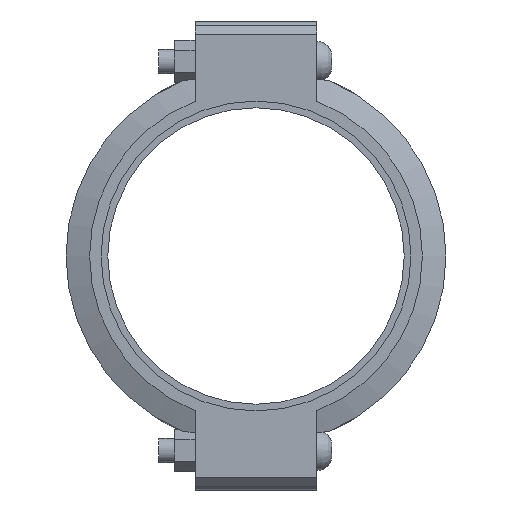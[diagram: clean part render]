
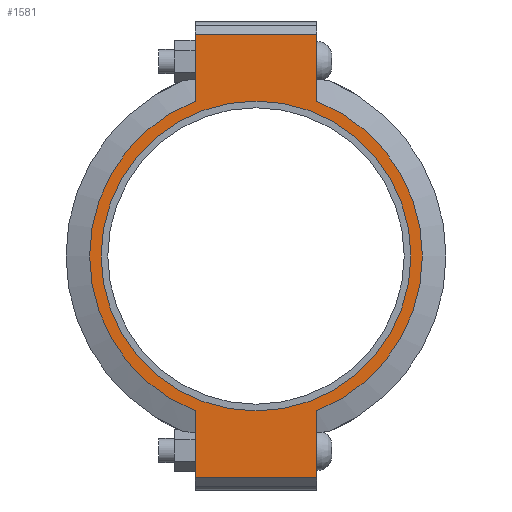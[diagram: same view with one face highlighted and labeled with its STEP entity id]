
A CAD part, left-side view. The second image highlights one B-rep face of the part: STEP entity #1581.
In plain terms, the highlighted planar face has unit normal (-1, 0, 0) as drawn and (0, 0, 1) by its records, which use the part's own axes.
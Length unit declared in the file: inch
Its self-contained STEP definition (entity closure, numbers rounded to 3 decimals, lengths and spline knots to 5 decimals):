
#152=LINE('',#2731,#241);
#163=LINE('',#2782,#252);
#169=LINE('',#2808,#258);
#171=LINE('',#2811,#260);
#172=LINE('',#2816,#261);
#173=LINE('',#2817,#262);
#241=VECTOR('',#2231,0.3937);
#252=VECTOR('',#2262,0.3937);
#258=VECTOR('',#2280,0.3937);
#260=VECTOR('',#2284,0.3937);
#261=VECTOR('',#2289,0.3937);
#262=VECTOR('',#2290,0.3937);
#324=FACE_BOUND('',#501,.T.);
#392=FACE_OUTER_BOUND('',#500,.T.);
#500=EDGE_LOOP('',(#1276,#1277,#1278,#1279,#1280,#1281,#1282,#1283));
#501=EDGE_LOOP('',(#1284));
#583=CIRCLE('',#1809,6.375);
#607=CIRCLE('',#1861,6.84375);
#608=CIRCLE('',#1862,6.84375);
#679=VERTEX_POINT('',#2557);
#720=VERTEX_POINT('',#2728);
#721=VERTEX_POINT('',#2730);
#738=VERTEX_POINT('',#2777);
#739=VERTEX_POINT('',#2781);
#746=VERTEX_POINT('',#2803);
#747=VERTEX_POINT('',#2807);
#748=VERTEX_POINT('',#2813);
#749=VERTEX_POINT('',#2815);
#843=EDGE_CURVE('',#679,#679,#583,.T.);
#900=EDGE_CURVE('',#721,#720,#152,.T.);
#921=EDGE_CURVE('',#739,#738,#163,.T.);
#932=EDGE_CURVE('',#747,#746,#169,.T.);
#934=EDGE_CURVE('',#747,#720,#171,.T.);
#935=EDGE_CURVE('',#746,#748,#607,.T.);
#936=EDGE_CURVE('',#748,#749,#172,.T.);
#937=EDGE_CURVE('',#739,#749,#173,.T.);
#938=EDGE_CURVE('',#738,#721,#608,.T.);
#1276=ORIENTED_EDGE('',*,*,#934,.F.);
#1277=ORIENTED_EDGE('',*,*,#932,.T.);
#1278=ORIENTED_EDGE('',*,*,#935,.T.);
#1279=ORIENTED_EDGE('',*,*,#936,.T.);
#1280=ORIENTED_EDGE('',*,*,#937,.F.);
#1281=ORIENTED_EDGE('',*,*,#921,.T.);
#1282=ORIENTED_EDGE('',*,*,#938,.T.);
#1283=ORIENTED_EDGE('',*,*,#900,.T.);
#1284=ORIENTED_EDGE('',*,*,#843,.T.);
#1421=PLANE('',#1860);
#1581=ADVANCED_FACE('',(#392,#324),#1421,.T.);
#1809=AXIS2_PLACEMENT_3D('',#2559,#2121,#2122);
#1860=AXIS2_PLACEMENT_3D('',#2812,#2285,#2286);
#1861=AXIS2_PLACEMENT_3D('',#2814,#2287,#2288);
#1862=AXIS2_PLACEMENT_3D('',#2818,#2291,#2292);
#2121=DIRECTION('center_axis',(0.,0.,-1.));
#2122=DIRECTION('ref_axis',(-1.,0.,0.));
#2231=DIRECTION('',(-1.,0.,0.));
#2262=DIRECTION('',(-1.,0.,0.));
#2280=DIRECTION('',(1.,0.,0.));
#2284=DIRECTION('',(0.,1.,0.));
#2285=DIRECTION('center_axis',(0.,0.,1.));
#2286=DIRECTION('ref_axis',(1.,0.,0.));
#2287=DIRECTION('center_axis',(0.,0.,1.));
#2288=DIRECTION('ref_axis',(-1.,0.,0.));
#2289=DIRECTION('',(1.,0.,0.));
#2290=DIRECTION('',(0.,-1.,0.));
#2291=DIRECTION('center_axis',(0.,0.,1.));
#2292=DIRECTION('ref_axis',(-1.,0.,0.));
#2557=CARTESIAN_POINT('',(6.375,0.,1.315));
#2559=CARTESIAN_POINT('Origin',(0.,0.,1.315));
#2728=CARTESIAN_POINT('',(-9.125,2.5,1.315));
#2730=CARTESIAN_POINT('',(-6.37079,2.5,1.315));
#2731=CARTESIAN_POINT('',(9.625,2.5,1.315));
#2777=CARTESIAN_POINT('',(6.37079,2.5,1.315));
#2781=CARTESIAN_POINT('',(9.125,2.5,1.315));
#2782=CARTESIAN_POINT('',(9.625,2.5,1.315));
#2803=CARTESIAN_POINT('',(-6.37079,-2.5,1.315));
#2807=CARTESIAN_POINT('',(-9.125,-2.5,1.315));
#2808=CARTESIAN_POINT('',(-9.625,-2.5,1.315));
#2811=CARTESIAN_POINT('',(-9.125,1.25,1.315));
#2812=CARTESIAN_POINT('Origin',(0.,0.,
1.315));
#2813=CARTESIAN_POINT('',(6.37079,-2.5,1.315));
#2814=CARTESIAN_POINT('Origin',(0.,0.,1.315));
#2815=CARTESIAN_POINT('',(9.125,-2.5,1.315));
#2816=CARTESIAN_POINT('',(-9.625,-2.5,1.315));
#2817=CARTESIAN_POINT('',(9.125,-1.25,1.315));
#2818=CARTESIAN_POINT('Origin',(0.,0.,1.315));
